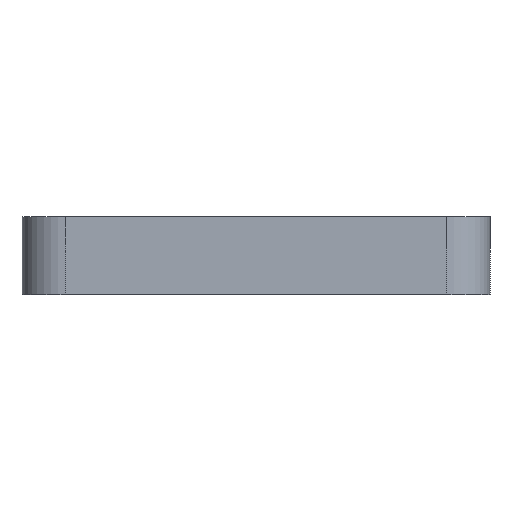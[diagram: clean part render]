
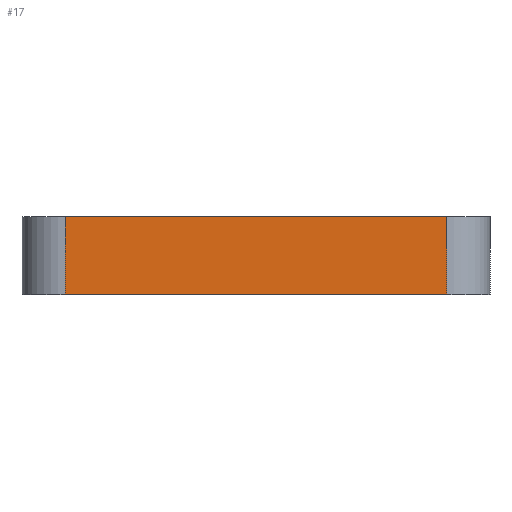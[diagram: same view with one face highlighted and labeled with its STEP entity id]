
A CAD part, left-side view. The second image highlights one B-rep face of the part: STEP entity #17.
In plain terms, the highlighted planar face has unit normal (-1, 0, 0).
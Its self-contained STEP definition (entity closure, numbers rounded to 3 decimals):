
#17 = ADVANCED_FACE('',(#18),#32,.F.);
#18 = FACE_BOUND('',#19,.F.);
#19 = EDGE_LOOP('',(#20,#55,#83,#111));
#20 = ORIENTED_EDGE('',*,*,#21,.F.);
#21 = EDGE_CURVE('',#22,#24,#26,.T.);
#22 = VERTEX_POINT('',#23);
#23 = CARTESIAN_POINT('',(19.2,21.2,27.6));
#24 = VERTEX_POINT('',#25);
#25 = CARTESIAN_POINT('',(19.2,38.8,27.6));
#26 = SURFACE_CURVE('',#27,(#31,#43),.PCURVE_S1.);
#27 = LINE('',#28,#29);
#28 = CARTESIAN_POINT('',(19.2,19.2,27.6));
#29 = VECTOR('',#30,1.);
#30 = DIRECTION('',(0.,1.,0.));
#31 = PCURVE('',#32,#37);
#32 = PLANE('',#33);
#33 = AXIS2_PLACEMENT_3D('',#34,#35,#36);
#34 = CARTESIAN_POINT('',(19.2,19.2,24.));
#35 = DIRECTION('',(1.,0.,0.));
#36 = DIRECTION('',(0.,0.,1.));
#37 = DEFINITIONAL_REPRESENTATION('',(#38),#42);
#38 = LINE('',#39,#40);
#39 = CARTESIAN_POINT('',(3.6,0.));
#40 = VECTOR('',#41,1.);
#41 = DIRECTION('',(0.,-1.));
#42 = ( GEOMETRIC_REPRESENTATION_CONTEXT(2) 
PARAMETRIC_REPRESENTATION_CONTEXT() REPRESENTATION_CONTEXT('2D SPACE',''
  ) );
#43 = PCURVE('',#44,#49);
#44 = PLANE('',#45);
#45 = AXIS2_PLACEMENT_3D('',#46,#47,#48);
#46 = CARTESIAN_POINT('',(19.2,19.2,27.6));
#47 = DIRECTION('',(0.,0.,1.));
#48 = DIRECTION('',(1.,0.,0.));
#49 = DEFINITIONAL_REPRESENTATION('',(#50),#54);
#50 = LINE('',#51,#52);
#51 = CARTESIAN_POINT('',(0.,0.));
#52 = VECTOR('',#53,1.);
#53 = DIRECTION('',(0.,1.));
#54 = ( GEOMETRIC_REPRESENTATION_CONTEXT(2) 
PARAMETRIC_REPRESENTATION_CONTEXT() REPRESENTATION_CONTEXT('2D SPACE',''
  ) );
#55 = ORIENTED_EDGE('',*,*,#56,.F.);
#56 = EDGE_CURVE('',#57,#22,#59,.T.);
#57 = VERTEX_POINT('',#58);
#58 = CARTESIAN_POINT('',(19.2,21.2,24.));
#59 = SURFACE_CURVE('',#60,(#64,#71),.PCURVE_S1.);
#60 = LINE('',#61,#62);
#61 = CARTESIAN_POINT('',(19.2,21.2,24.));
#62 = VECTOR('',#63,1.);
#63 = DIRECTION('',(0.,0.,1.));
#64 = PCURVE('',#32,#65);
#65 = DEFINITIONAL_REPRESENTATION('',(#66),#70);
#66 = LINE('',#67,#68);
#67 = CARTESIAN_POINT('',(0.,-2.));
#68 = VECTOR('',#69,1.);
#69 = DIRECTION('',(1.,0.));
#70 = ( GEOMETRIC_REPRESENTATION_CONTEXT(2) 
PARAMETRIC_REPRESENTATION_CONTEXT() REPRESENTATION_CONTEXT('2D SPACE',''
  ) );
#71 = PCURVE('',#72,#77);
#72 = CYLINDRICAL_SURFACE('',#73,2.);
#73 = AXIS2_PLACEMENT_3D('',#74,#75,#76);
#74 = CARTESIAN_POINT('',(21.2,21.2,24.));
#75 = DIRECTION('',(0.,0.,1.));
#76 = DIRECTION('',(-1.,-0.,0.));
#77 = DEFINITIONAL_REPRESENTATION('',(#78),#82);
#78 = LINE('',#79,#80);
#79 = CARTESIAN_POINT('',(0.,0.));
#80 = VECTOR('',#81,1.);
#81 = DIRECTION('',(0.,1.));
#82 = ( GEOMETRIC_REPRESENTATION_CONTEXT(2) 
PARAMETRIC_REPRESENTATION_CONTEXT() REPRESENTATION_CONTEXT('2D SPACE',''
  ) );
#83 = ORIENTED_EDGE('',*,*,#84,.T.);
#84 = EDGE_CURVE('',#57,#85,#87,.T.);
#85 = VERTEX_POINT('',#86);
#86 = CARTESIAN_POINT('',(19.2,38.8,24.));
#87 = SURFACE_CURVE('',#88,(#92,#99),.PCURVE_S1.);
#88 = LINE('',#89,#90);
#89 = CARTESIAN_POINT('',(19.2,19.2,24.));
#90 = VECTOR('',#91,1.);
#91 = DIRECTION('',(0.,1.,0.));
#92 = PCURVE('',#32,#93);
#93 = DEFINITIONAL_REPRESENTATION('',(#94),#98);
#94 = LINE('',#95,#96);
#95 = CARTESIAN_POINT('',(0.,0.));
#96 = VECTOR('',#97,1.);
#97 = DIRECTION('',(0.,-1.));
#98 = ( GEOMETRIC_REPRESENTATION_CONTEXT(2) 
PARAMETRIC_REPRESENTATION_CONTEXT() REPRESENTATION_CONTEXT('2D SPACE',''
  ) );
#99 = PCURVE('',#100,#105);
#100 = PLANE('',#101);
#101 = AXIS2_PLACEMENT_3D('',#102,#103,#104);
#102 = CARTESIAN_POINT('',(19.2,19.2,24.));
#103 = DIRECTION('',(0.,0.,1.));
#104 = DIRECTION('',(1.,0.,0.));
#105 = DEFINITIONAL_REPRESENTATION('',(#106),#110);
#106 = LINE('',#107,#108);
#107 = CARTESIAN_POINT('',(0.,0.));
#108 = VECTOR('',#109,1.);
#109 = DIRECTION('',(0.,1.));
#110 = ( GEOMETRIC_REPRESENTATION_CONTEXT(2) 
PARAMETRIC_REPRESENTATION_CONTEXT() REPRESENTATION_CONTEXT('2D SPACE',''
  ) );
#111 = ORIENTED_EDGE('',*,*,#112,.T.);
#112 = EDGE_CURVE('',#85,#24,#113,.T.);
#113 = SURFACE_CURVE('',#114,(#118,#125),.PCURVE_S1.);
#114 = LINE('',#115,#116);
#115 = CARTESIAN_POINT('',(19.2,38.8,24.));
#116 = VECTOR('',#117,1.);
#117 = DIRECTION('',(0.,0.,1.));
#118 = PCURVE('',#32,#119);
#119 = DEFINITIONAL_REPRESENTATION('',(#120),#124);
#120 = LINE('',#121,#122);
#121 = CARTESIAN_POINT('',(0.,-19.6));
#122 = VECTOR('',#123,1.);
#123 = DIRECTION('',(1.,0.));
#124 = ( GEOMETRIC_REPRESENTATION_CONTEXT(2) 
PARAMETRIC_REPRESENTATION_CONTEXT() REPRESENTATION_CONTEXT('2D SPACE',''
  ) );
#125 = PCURVE('',#126,#131);
#126 = CYLINDRICAL_SURFACE('',#127,2.);
#127 = AXIS2_PLACEMENT_3D('',#128,#129,#130);
#128 = CARTESIAN_POINT('',(21.2,38.8,24.));
#129 = DIRECTION('',(0.,0.,1.));
#130 = DIRECTION('',(-1.,-0.,0.));
#131 = DEFINITIONAL_REPRESENTATION('',(#132),#136);
#132 = LINE('',#133,#134);
#133 = CARTESIAN_POINT('',(-0.,0.));
#134 = VECTOR('',#135,1.);
#135 = DIRECTION('',(-0.,1.));
#136 = ( GEOMETRIC_REPRESENTATION_CONTEXT(2) 
PARAMETRIC_REPRESENTATION_CONTEXT() REPRESENTATION_CONTEXT('2D SPACE',''
  ) );
